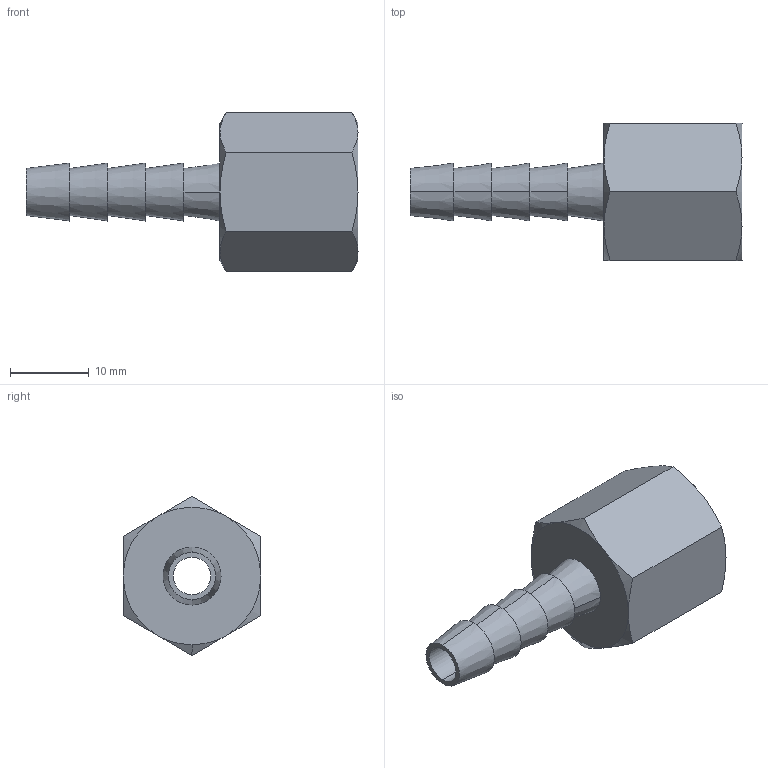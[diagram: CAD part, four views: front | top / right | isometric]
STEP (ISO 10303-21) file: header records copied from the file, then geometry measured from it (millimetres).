
FILE_DESCRIPTION (( 'STEP AP203' ), '1' );
FILE_NAME ('FB14-4.step', '2020-08-19T05:46:08', ( 'Microsoft Corporation' ), ( 'MS' ), 'SwSTEP 2.0', 'SolidWorks 2018', '' );
FILE_SCHEMA (( 'CONFIG_CONTROL_DESIGN' ));
Length unit declared in the file: inch
Products named in the file (1): FB14-4
Bounding box: 42.16 x 17.46 x 20.16 mm (x, y, z)
Volume: 3434 mm3; surface area: 2970.5 mm2
Topology: 1 solids, 1 shells, 47 faces, 102 edges, 62 vertices
Faces by surface type: cone 30, plane 13, cylinder 4
Entity records: 1437 total; most frequent: CARTESIAN_POINT 332, DIRECTION 224, ORIENTED_EDGE 204, EDGE_CURVE 102, AXIS2_PLACEMENT_3D 98, VERTEX_POINT 62, EDGE_LOOP 54, CIRCLE 50
